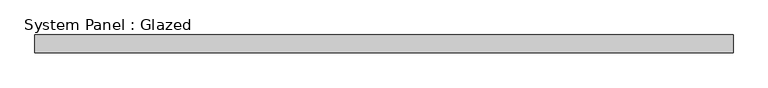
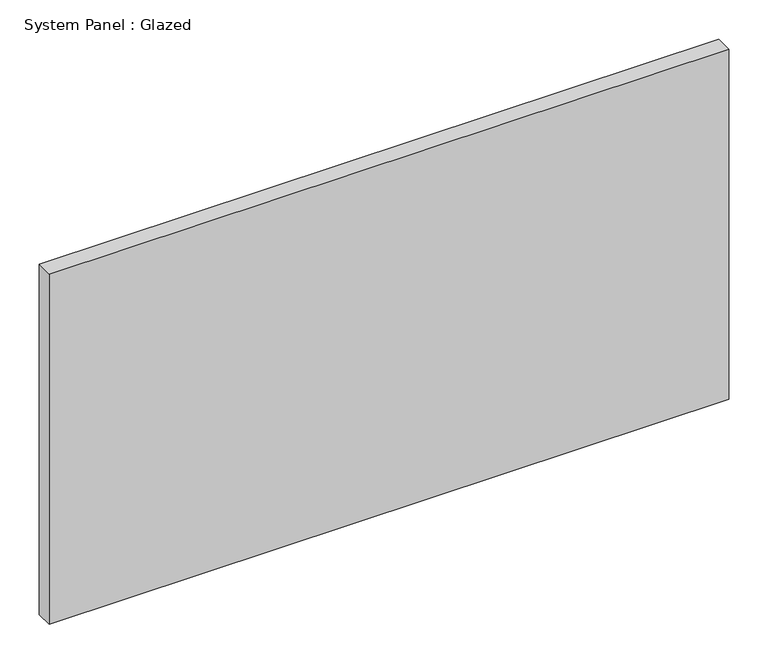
"""IFC4 building model written with IfcOpenShell, lengths in millimetres: plate geometry, System Panel : Glazed."""

from ifc_helpers import new_model, si_unit, origin, origin_with_axes, place, context, project, spatial, polyline, outline, extrude, source, transform, mapped, element, save


def system_panel_glazed_2df7e5ea(model_context):
    return source(origin(), model_context, "Body", "SweptSolid", [
        extrude(outline(polyline([(501.1964285, 19.05), (-501.1964285, 19.05), (-501.1964285, 44.45), (501.1964285, 44.45), (501.1964285, 19.05)])), origin_with_axes(), (0.0, 0.0, 1.0), 546.1),
    ])


if __name__ == "__main__":
    model = new_model("IFC4")
    model_context = context("Model", 3, world=origin())
    ifc_project = project(units=[si_unit("LENGTHUNIT", "METRE", prefix="MILLI")], contexts=[model_context])
    site = spatial("IfcSite", under=ifc_project)
    building = spatial("IfcBuilding", under=site)
    placement = place(None, origin())
    system_panel_glazed_shape = system_panel_glazed_2df7e5ea(model_context)
    element("IfcPlate", 1, ObjectType="System Panel : Glazed", at=placement, inside=building, context=model_context, shape_type="MappedRepresentation", body=[
        mapped(system_panel_glazed_shape, transform((0.0, 0.0, 0.0), x_axis=(1.0, 0.0, 0.0), y_axis=(0.0, 1.0, 0.0), z_axis=(0.0, 0.0, 1.0))),
    ])
    save(model, "model.ifc")
